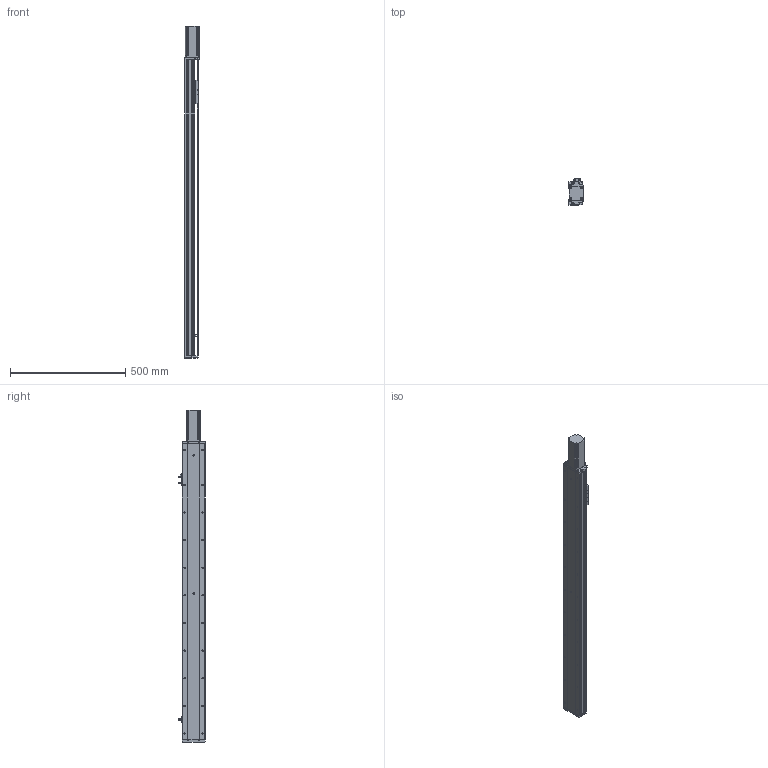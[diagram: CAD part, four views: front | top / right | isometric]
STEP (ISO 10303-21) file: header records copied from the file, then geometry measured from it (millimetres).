
FILE_DESCRIPTION (( 'STEP AP214' ), '1' );
FILE_NAME ('KSD100S-S1050-MN-CM.STEP', '2019-08-30T07:57:22', ( '微软用户' ), ( '微软中国' ), 'SwSTEP 2.0', 'SolidWorks 2014', '' );
FILE_SCHEMA (( 'AUTOMOTIVE_DESIGN' ));
Length unit declared in the file: millimetre
Products named in the file (9): 台达ECMA－C20604AS伺服电机; 覜茼え100遵圉猾敕; U倰嫖萇EEㄜSX672; 100宽防尘板丝杆1050行程不带电机座; 100宽马达安装板不带电机座; 100宽滚珠螺姆安装板半封闭; 100遵傷啣; 100宽底板半封闭1050行程丝杆不带电机座; KSD100S-S1050-MN-CM
Assembly tree (10 placements, depth 2):
  KSD100S-S1050-MN-CM
    100宽底板半封闭1050行程丝杆不带电机座
    100遵傷啣
    100宽滚珠螺姆安装板半封闭
    100宽马达安装板不带电机座
    100宽防尘板丝杆1050行程不带电机座
    U倰嫖萇EEㄜSX672  x3
    覜茼え100遵圉猾敕
    台达ECMA－C20604AS伺服电机
Bounding box: 62 x 113.7 x 1442 mm (x, y, z)
Volume: 2914661.4 mm3; surface area: 936107.5 mm2
Topology: 11 solids, 11 shells, 1220 faces, 3470 edges, 2177 vertices
Faces by surface type: cylinder 597, plane 472, cone 151
Entity records: 43176 total; most frequent: CARTESIAN_POINT 9170, DIRECTION 5677, ORIENTED_EDGE 5544, EDGE_CURVE 2772, AXIS2_PLACEMENT_3D 2064, VERTEX_POINT 1801, VECTOR 1549, LINE 1549
